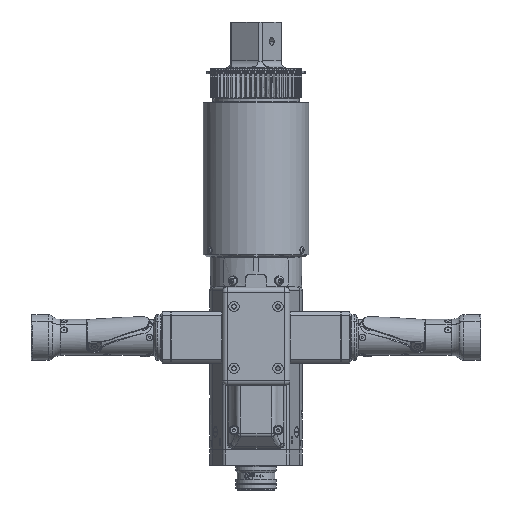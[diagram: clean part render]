
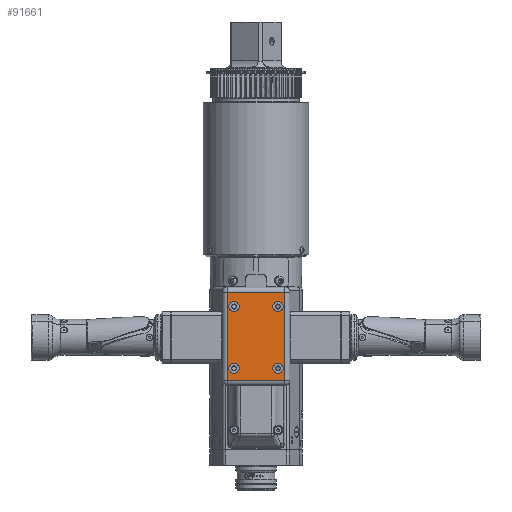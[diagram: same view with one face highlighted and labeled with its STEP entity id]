
A CAD part, front view. The second image highlights one B-rep face of the part: STEP entity #91661.
In plain terms, the highlighted planar face has unit normal (0, -1, 0).
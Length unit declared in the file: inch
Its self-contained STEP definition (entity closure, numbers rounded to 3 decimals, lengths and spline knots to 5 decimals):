
#156 = EDGE_CURVE ( 'NONE', #111843, #159214, #125625, .T. ) ;
#1569 = EDGE_LOOP ( 'NONE', ( #117047, #172324, #139571, #100899 ) ) ;
#1818 = DIRECTION ( 'NONE',  ( 0., 0., 1. ) ) ;
#2690 = DIRECTION ( 'NONE',  ( 0., 0., 1. ) ) ;
#3077 = VECTOR ( 'NONE', #69930, 39.37008 ) ;
#3923 = AXIS2_PLACEMENT_3D ( 'NONE', #32860, #126696, #46322 ) ;
#5782 = VERTEX_POINT ( 'NONE', #108899 ) ;
#7635 = CARTESIAN_POINT ( 'NONE',  ( 0.854, -3.9875, -6.865 ) ) ;
#8209 = DIRECTION ( 'NONE',  ( 0., 0., 1. ) ) ;
#11204 = LINE ( 'NONE', #143864, #42687 ) ;
#12024 = VERTEX_POINT ( 'NONE', #16492 ) ;
#14856 = ORIENTED_EDGE ( 'NONE', *, *, #70243, .F. ) ;
#16388 = PLANE ( 'NONE',  #94555 ) ;
#16492 = CARTESIAN_POINT ( 'NONE',  ( -0.854, -3.9875, -6.667 ) ) ;
#18149 = AXIS2_PLACEMENT_3D ( 'NONE', #162437, #82181, #1818 ) ;
#18204 = EDGE_CURVE ( 'NONE', #153440, #80699, #105910, .T. ) ;
#19740 = FACE_OUTER_BOUND ( 'NONE', #1569, .T. ) ;
#20369 = CIRCLE ( 'NONE', #3923, 0.198 ) ;
#20651 = CARTESIAN_POINT ( 'NONE',  ( 0.854, -3.9875, -9.265 ) ) ;
#21456 = CARTESIAN_POINT ( 'NONE',  ( -0.854, -3.9875, -7.063 ) ) ;
#21941 = VERTEX_POINT ( 'NONE', #41681 ) ;
#22103 = EDGE_LOOP ( 'NONE', ( #31746, #32758 ) ) ;
#23949 = FACE_BOUND ( 'NONE', #126046, .T. ) ;
#28682 = EDGE_CURVE ( 'NONE', #124464, #12024, #100896, .T. ) ;
#30439 = CIRCLE ( 'NONE', #83560, 0.198 ) ;
#30452 = DIRECTION ( 'NONE',  ( 0., -1., 0. ) ) ;
#31115 = DIRECTION ( 'NONE',  ( 0., -1., 0. ) ) ;
#31669 = CARTESIAN_POINT ( 'NONE',  ( -0.854, -3.9875, -9.463 ) ) ;
#31746 = ORIENTED_EDGE ( 'NONE', *, *, #49694, .F. ) ;
#31915 = CARTESIAN_POINT ( 'NONE',  ( 1.125, -3.9875, -6.302 ) ) ;
#32265 = EDGE_CURVE ( 'NONE', #21941, #153440, #11204, .T. ) ;
#32758 = ORIENTED_EDGE ( 'NONE', *, *, #28682, .F. ) ;
#32860 = CARTESIAN_POINT ( 'NONE',  ( 0.854, -3.9875, -6.865 ) ) ;
#33560 = AXIS2_PLACEMENT_3D ( 'NONE', #163340, #83069, #2690 ) ;
#34133 = DIRECTION ( 'NONE',  ( 0., 0., 1. ) ) ;
#36623 = AXIS2_PLACEMENT_3D ( 'NONE', #20651, #114514, #34133 ) ;
#41681 = CARTESIAN_POINT ( 'NONE',  ( -1.125, -3.9875, -6.302 ) ) ;
#42687 = VECTOR ( 'NONE', #116946, 39.37008 ) ;
#43460 = CARTESIAN_POINT ( 'NONE',  ( 0.854, -3.9875, -6.667 ) ) ;
#45114 = DIRECTION ( 'NONE',  ( 0., -1., 0. ) ) ;
#46322 = DIRECTION ( 'NONE',  ( 0., 0., 1. ) ) ;
#49694 = EDGE_CURVE ( 'NONE', #12024, #124464, #154398, .T. ) ;
#49896 = CARTESIAN_POINT ( 'NONE',  ( -1.125, -3.9875, -6.302 ) ) ;
#51485 = CARTESIAN_POINT ( 'NONE',  ( -0.854, -3.9875, -6.865 ) ) ;
#55436 = FACE_BOUND ( 'NONE', #59968, .T. ) ;
#58370 = AXIS2_PLACEMENT_3D ( 'NONE', #51485, #145302, #64987 ) ;
#58894 = LINE ( 'NONE', #49896, #121858 ) ;
#59968 = EDGE_LOOP ( 'NONE', ( #111983, #14856 ) ) ;
#63375 = DIRECTION ( 'NONE',  ( -1., 0., 0. ) ) ;
#64987 = DIRECTION ( 'NONE',  ( 0., 0., 1. ) ) ;
#69406 = CARTESIAN_POINT ( 'NONE',  ( 1.125, -3.9875, -6.1145 ) ) ;
#69930 = DIRECTION ( 'NONE',  ( 1., 0., 0. ) ) ;
#70243 = EDGE_CURVE ( 'NONE', #76190, #126805, #109976, .T. ) ;
#76190 = VERTEX_POINT ( 'NONE', #134568 ) ;
#78071 = VERTEX_POINT ( 'NONE', #31915 ) ;
#80699 = VERTEX_POINT ( 'NONE', #126258 ) ;
#82019 = AXIS2_PLACEMENT_3D ( 'NONE', #125494, #45114, #138918 ) ;
#82027 = ORIENTED_EDGE ( 'NONE', *, *, #135276, .F. ) ;
#82181 = DIRECTION ( 'NONE',  ( 0., -1., 0. ) ) ;
#83069 = DIRECTION ( 'NONE',  ( 0., -1., 0. ) ) ;
#83560 = AXIS2_PLACEMENT_3D ( 'NONE', #111466, #31115, #124953 ) ;
#85758 = EDGE_CURVE ( 'NONE', #5782, #134672, #139136, .T. ) ;
#87493 = DIRECTION ( 'NONE',  ( 0., 0., 1. ) ) ;
#89687 = CARTESIAN_POINT ( 'NONE',  ( -1.125, -3.9875, -9.7395 ) ) ;
#91661 = ADVANCED_FACE ( 'NONE', ( #23949, #55436, #126770, #135163, #19740 ), #16388, .T. ) ;
#93399 = ORIENTED_EDGE ( 'NONE', *, *, #156, .F. ) ;
#94555 = AXIS2_PLACEMENT_3D ( 'NONE', #110823, #30452, #124289 ) ;
#100896 = CIRCLE ( 'NONE', #58370, 0.198 ) ;
#100899 = ORIENTED_EDGE ( 'NONE', *, *, #18204, .T. ) ;
#101472 = DIRECTION ( 'NONE',  ( 0., -1., 0. ) ) ;
#105910 = LINE ( 'NONE', #111518, #3077 ) ;
#108899 = CARTESIAN_POINT ( 'NONE',  ( -0.854, -3.9875, -9.067 ) ) ;
#109976 = CIRCLE ( 'NONE', #36623, 0.198 ) ;
#110823 = CARTESIAN_POINT ( 'NONE',  ( 1.3125, -3.9875, -6.1145 ) ) ;
#111466 = CARTESIAN_POINT ( 'NONE',  ( -0.854, -3.9875, -9.265 ) ) ;
#111518 = CARTESIAN_POINT ( 'NONE',  ( 1.3125, -3.9875, -9.7395 ) ) ;
#111843 = VERTEX_POINT ( 'NONE', #43460 ) ;
#111983 = ORIENTED_EDGE ( 'NONE', *, *, #169665, .F. ) ;
#114514 = DIRECTION ( 'NONE',  ( 0., -1., 0. ) ) ;
#114566 = CIRCLE ( 'NONE', #33560, 0.198 ) ;
#116946 = DIRECTION ( 'NONE',  ( 0., 0., -1. ) ) ;
#117047 = ORIENTED_EDGE ( 'NONE', *, *, #119911, .T. ) ;
#119911 = EDGE_CURVE ( 'NONE', #80699, #78071, #169154, .T. ) ;
#120925 = ORIENTED_EDGE ( 'NONE', *, *, #85758, .F. ) ;
#121858 = VECTOR ( 'NONE', #63375, 39.37008 ) ;
#123683 = EDGE_CURVE ( 'NONE', #134672, #5782, #30439, .T. ) ;
#124289 = DIRECTION ( 'NONE',  ( 0., 0., 1. ) ) ;
#124464 = VERTEX_POINT ( 'NONE', #21456 ) ;
#124953 = DIRECTION ( 'NONE',  ( 0., 0., 1. ) ) ;
#125494 = CARTESIAN_POINT ( 'NONE',  ( -0.854, -3.9875, -6.865 ) ) ;
#125625 = CIRCLE ( 'NONE', #129962, 0.198 ) ;
#126046 = EDGE_LOOP ( 'NONE', ( #120925, #132068 ) ) ;
#126258 = CARTESIAN_POINT ( 'NONE',  ( 1.125, -3.9875, -9.7395 ) ) ;
#126696 = DIRECTION ( 'NONE',  ( 0., -1., 0. ) ) ;
#126770 = FACE_BOUND ( 'NONE', #173711, .T. ) ;
#126805 = VERTEX_POINT ( 'NONE', #128960 ) ;
#128960 = CARTESIAN_POINT ( 'NONE',  ( 0.854, -3.9875, -9.067 ) ) ;
#129962 = AXIS2_PLACEMENT_3D ( 'NONE', #7635, #101472, #8209 ) ;
#132068 = ORIENTED_EDGE ( 'NONE', *, *, #123683, .F. ) ;
#133468 = VECTOR ( 'NONE', #87493, 39.37008 ) ;
#134568 = CARTESIAN_POINT ( 'NONE',  ( 0.854, -3.9875, -9.463 ) ) ;
#134672 = VERTEX_POINT ( 'NONE', #31669 ) ;
#135163 = FACE_BOUND ( 'NONE', #22103, .T. ) ;
#135276 = EDGE_CURVE ( 'NONE', #159214, #111843, #20369, .T. ) ;
#138918 = DIRECTION ( 'NONE',  ( 0., 0., 1. ) ) ;
#139136 = CIRCLE ( 'NONE', #18149, 0.198 ) ;
#139571 = ORIENTED_EDGE ( 'NONE', *, *, #32265, .T. ) ;
#143864 = CARTESIAN_POINT ( 'NONE',  ( -1.125, -3.9875, -6.1145 ) ) ;
#145302 = DIRECTION ( 'NONE',  ( 0., -1., 0. ) ) ;
#153440 = VERTEX_POINT ( 'NONE', #89687 ) ;
#154398 = CIRCLE ( 'NONE', #82019, 0.198 ) ;
#159214 = VERTEX_POINT ( 'NONE', #168666 ) ;
#162437 = CARTESIAN_POINT ( 'NONE',  ( -0.854, -3.9875, -9.265 ) ) ;
#163309 = EDGE_CURVE ( 'NONE', #78071, #21941, #58894, .T. ) ;
#163340 = CARTESIAN_POINT ( 'NONE',  ( 0.854, -3.9875, -9.265 ) ) ;
#168666 = CARTESIAN_POINT ( 'NONE',  ( 0.854, -3.9875, -7.063 ) ) ;
#169154 = LINE ( 'NONE', #69406, #133468 ) ;
#169665 = EDGE_CURVE ( 'NONE', #126805, #76190, #114566, .T. ) ;
#172324 = ORIENTED_EDGE ( 'NONE', *, *, #163309, .T. ) ;
#173711 = EDGE_LOOP ( 'NONE', ( #93399, #82027 ) ) ;
